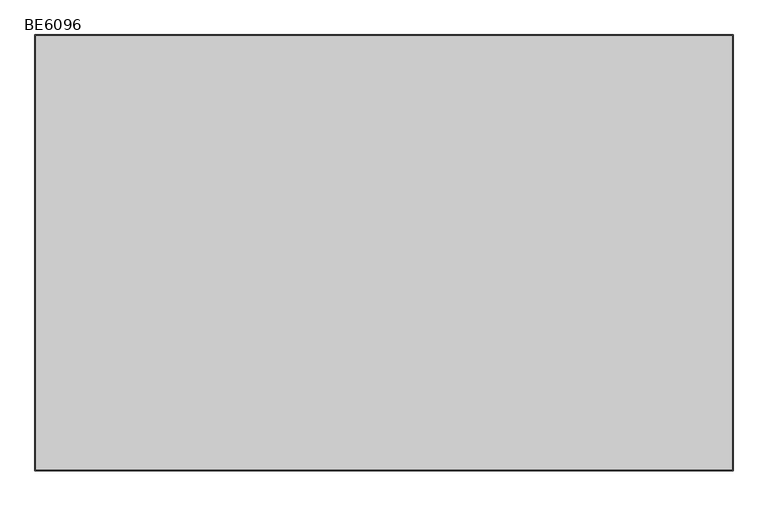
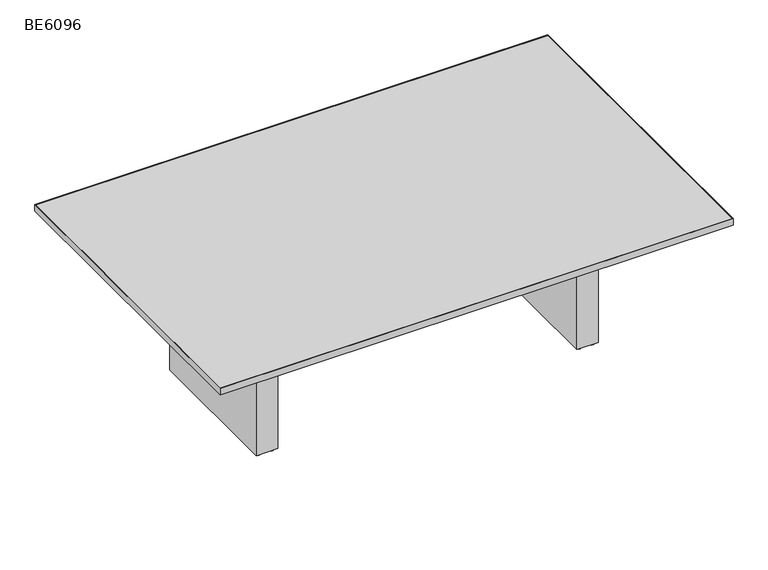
"""IFC4 building model written with IfcOpenShell, lengths in millimetres: furniture geometry, ERG-Beta-Conference_Table-Rectangle : BE6096."""

from ifc_helpers import new_model, si_unit, point, frame, frame_2d, origin, origin_with_axes, place, context, project, spatial, polyline, circle_curve, trimmed, segment, composite_curve, outline, extrude, source, transform, mapped, element, save


def be6096_d5abcd09(model_context):
    return source(origin(), model_context, "Body", "SweptSolid", [
        extrude(outline(composite_curve([segment(trimmed(circle_curve(frame_2d((1273.175, 390.276527)), 9.525), [point((1263.65, 390.276527))], [point((1282.7, 390.276527))], False, "CARTESIAN"), True, "CONTINUOUS"), segment(trimmed(circle_curve(frame_2d((1273.175, 390.276527)), 9.525), [point((1282.7, 390.276527))], [point((1263.65, 390.276527))], False, "CARTESIAN"), True, "CONTINUOUS")], self_intersect=False)), origin_with_axes(), (0.0, 0.0, 1.0), 9.525),
        extrude(outline(composite_curve([segment(trimmed(circle_curve(frame_2d((1336.675, 390.276527)), 9.525), [point((1327.15, 390.276527))], [point((1346.2, 390.276527))], False, "CARTESIAN"), True, "CONTINUOUS"), segment(trimmed(circle_curve(frame_2d((1336.675, 390.276527)), 9.525), [point((1346.2, 390.276527))], [point((1327.15, 390.276527))], False, "CARTESIAN"), True, "CONTINUOUS")], self_intersect=False)), origin_with_axes(), (0.0, 0.0, 1.0), 9.525),
        extrude(outline(composite_curve([segment(trimmed(circle_curve(frame_2d((1273.175, -282.823473)), 9.525), [point((1263.65, -282.823473))], [point((1282.7, -282.823473))], False, "CARTESIAN"), True, "CONTINUOUS"), segment(trimmed(circle_curve(frame_2d((1273.175, -282.823473)), 9.525), [point((1282.7, -282.823473))], [point((1263.65, -282.823473))], False, "CARTESIAN"), True, "CONTINUOUS")], self_intersect=False)), origin_with_axes(), (0.0, 0.0, 1.0), 9.525),
        extrude(outline(composite_curve([segment(trimmed(circle_curve(frame_2d((1336.675, -282.823473)), 9.525), [point((1327.15, -282.823473))], [point((1346.2, -282.823473))], False, "CARTESIAN"), True, "CONTINUOUS"), segment(trimmed(circle_curve(frame_2d((1336.675, -282.823473)), 9.525), [point((1346.2, -282.823473))], [point((1327.15, -282.823473))], False, "CARTESIAN"), True, "CONTINUOUS")], self_intersect=False)), origin_with_axes(), (0.0, 0.0, 1.0), 9.525),
        extrude(outline(polyline([(1355.725, 409.326527), (1355.725, -301.873473), (1254.125, -301.873473), (1254.125, 409.326527), (1355.725, 409.326527)])), frame((0.0, 0.0, 9.525), z_axis=(0.0, 0.0, 1.0), x_axis=(1.0, 0.0, 0.0)), (0.0, 0.0, 1.0), 695.3249758),
        extrude(outline(composite_curve([segment(trimmed(circle_curve(frame_2d((-250.825, 390.276527)), 9.525), [point((-260.35, 390.276527))], [point((-241.3, 390.276527))], False, "CARTESIAN"), True, "CONTINUOUS"), segment(trimmed(circle_curve(frame_2d((-250.825, 390.276527)), 9.525), [point((-241.3, 390.276527))], [point((-260.35, 390.276527))], False, "CARTESIAN"), True, "CONTINUOUS")], self_intersect=False)), origin_with_axes(), (0.0, 0.0, 1.0), 9.525),
        extrude(outline(composite_curve([segment(trimmed(circle_curve(frame_2d((-187.325, 390.276527)), 9.525), [point((-196.85, 390.276527))], [point((-177.8, 390.276527))], False, "CARTESIAN"), True, "CONTINUOUS"), segment(trimmed(circle_curve(frame_2d((-187.325, 390.276527)), 9.525), [point((-177.8, 390.276527))], [point((-196.85, 390.276527))], False, "CARTESIAN"), True, "CONTINUOUS")], self_intersect=False)), origin_with_axes(), (0.0, 0.0, 1.0), 9.525),
        extrude(outline(composite_curve([segment(trimmed(circle_curve(frame_2d((-250.825, -282.823473)), 9.525), [point((-260.35, -282.823473))], [point((-241.3, -282.823473))], False, "CARTESIAN"), True, "CONTINUOUS"), segment(trimmed(circle_curve(frame_2d((-250.825, -282.823473)), 9.525), [point((-241.3, -282.823473))], [point((-260.35, -282.823473))], False, "CARTESIAN"), True, "CONTINUOUS")], self_intersect=False)), origin_with_axes(), (0.0, 0.0, 1.0), 9.525),
        extrude(outline(composite_curve([segment(trimmed(circle_curve(frame_2d((-187.325, -282.823473)), 9.525), [point((-196.85, -282.823473))], [point((-177.8, -282.823473))], False, "CARTESIAN"), True, "CONTINUOUS"), segment(trimmed(circle_curve(frame_2d((-187.325, -282.823473)), 9.525), [point((-177.8, -282.823473))], [point((-196.85, -282.823473))], False, "CARTESIAN"), True, "CONTINUOUS")], self_intersect=False)), origin_with_axes(), (0.0, 0.0, 1.0), 9.525),
        extrude(outline(polyline([(-168.275, 409.326527), (-168.275, -301.873473), (-269.875, -301.873473), (-269.875, 409.326527), (-168.275, 409.326527)])), frame((0.0, 0.0, 9.525), z_axis=(0.0, 0.0, 1.0), x_axis=(1.0, 0.0, 0.0)), (0.0, 0.0, 1.0), 695.3249758),
        extrude(outline(polyline([(1762.125, -708.273473), (-676.275, -708.273473), (-676.275, 815.726527), (1762.125, 815.726527), (1762.125, -708.273473)]), holes=[polyline([(1758.95, 812.551527), (-673.1, 812.551527), (-673.1, -705.098473), (1758.95, -705.098473), (1758.95, 812.551527)])]), frame((0.0, 0.0, 704.85), z_axis=(0.0, 0.0, 1.0), x_axis=(1.0, 0.0, 0.0)), (0.0, 0.0, 1.0), 31.75),
        extrude(outline(polyline([(1758.95, -705.098473), (-673.1, -705.098473), (-673.1, 812.551527), (1758.95, 812.551527), (1758.95, -705.098473)])), frame((0.0, 0.0, 704.85), z_axis=(0.0, 0.0, 1.0), x_axis=(1.0, 0.0, 0.0)), (0.0, 0.0, 1.0), 31.75),
    ])


if __name__ == "__main__":
    model = new_model("IFC4")
    model_context = context("Model", 3, world=origin())
    ifc_project = project(units=[si_unit("LENGTHUNIT", "METRE", prefix="MILLI")], contexts=[model_context])
    site = spatial("IfcSite", under=ifc_project)
    building = spatial("IfcBuilding", under=site)
    placement = place(None, origin())
    be6096_shape = be6096_d5abcd09(model_context)
    element("IfcFurniture", 1, ObjectType="ERG-Beta-Conference_Table-Rectangle : BE6096", at=placement, inside=building, context=model_context, shape_type="MappedRepresentation", body=[
        mapped(be6096_shape, transform((0.0, 0.0, 0.0), x_axis=(1.0, 0.0, 0.0), y_axis=(0.0, 1.0, 0.0), z_axis=(0.0, 0.0, 1.0))),
    ])
    save(model, "model.ifc")
